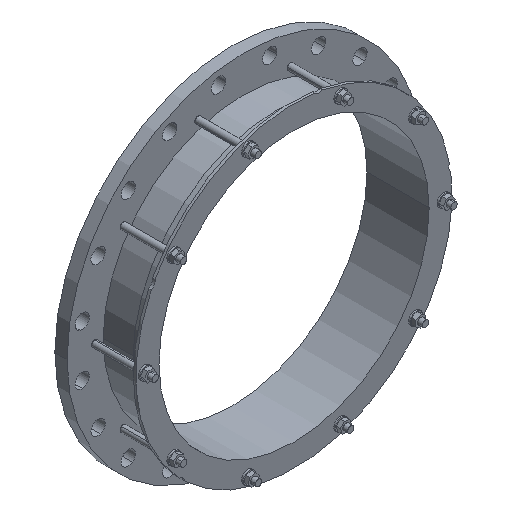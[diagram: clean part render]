
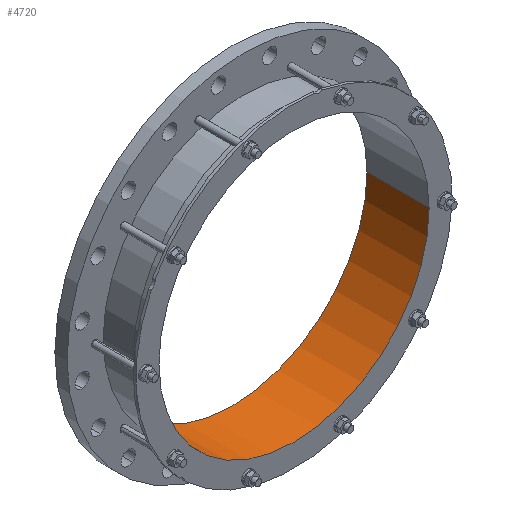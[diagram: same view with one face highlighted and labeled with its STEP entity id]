
A CAD part, isometric view. The second image highlights one B-rep face of the part: STEP entity #4720.
In plain terms, the highlighted cylindrical face has radius 255.5 mm (diameter 511 mm), a partial arc.
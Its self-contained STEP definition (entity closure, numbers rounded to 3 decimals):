
#7=CARTESIAN_POINT('',(0.,23.,0.));
#8=DIRECTION('',(0.,1.,0.));
#9=DIRECTION('',(1.,0.,0.));
#10=AXIS2_PLACEMENT_3D('',#7,#8,#9);
#1601=CARTESIAN_POINT('',(0.,-94.452,0.));
#1602=DIRECTION('',(0.,1.,0.));
#1603=DIRECTION('',(1.,0.,0.));
#1604=AXIS2_PLACEMENT_3D('',#1601,#1602,#1603);
#1606=DIRECTION('',(0.,1.,0.));
#1607=VECTOR('',#1606,117.452);
#1608=CARTESIAN_POINT('',(255.5,-94.452,0.));
#1609=LINE('',#1608,#1607);
#1610=DIRECTION('',(0.,1.,0.));
#1611=VECTOR('',#1610,117.452);
#1612=CARTESIAN_POINT('',(-255.5,-94.452,0.));
#1613=LINE('',#1612,#1611);
#3136=CARTESIAN_POINT('',(255.5,-94.452,0.));
#3137=CARTESIAN_POINT('',(255.5,23.,0.));
#3138=VERTEX_POINT('',#3136);
#3139=VERTEX_POINT('',#3137);
#3144=CARTESIAN_POINT('',(-255.5,-94.452,0.));
#3145=CARTESIAN_POINT('',(-255.5,23.,0.));
#3146=VERTEX_POINT('',#3144);
#3147=VERTEX_POINT('',#3145);
#4707=CARTESIAN_POINT('',(0.,-100.325,0.));
#4708=DIRECTION('',(0.,1.,0.));
#4709=DIRECTION('',(-1.,0.,0.));
#4710=AXIS2_PLACEMENT_3D('',#4707,#4708,#4709);
#4711=CYLINDRICAL_SURFACE('',#4710,255.5);
#4713=ORIENTED_EDGE('',*,*,#4712,.F.);
#4714=ORIENTED_EDGE('',*,*,#4700,.T.);
#4716=ORIENTED_EDGE('',*,*,#4715,.T.);
#4717=ORIENTED_EDGE('',*,*,#3879,.F.);
#4718=EDGE_LOOP('',(#4713,#4714,#4716,#4717));
#4719=FACE_OUTER_BOUND('',#4718,.F.);
#4720=ADVANCED_FACE('',(#4719),#4711,.F.);
#11=CIRCLE('',#10,255.5);
#1605=CIRCLE('',#1604,255.5);
#3879=EDGE_CURVE('',#3139,#3147,#11,.T.);
#4700=EDGE_CURVE('',#3138,#3146,#1605,.T.);
#4712=EDGE_CURVE('',#3138,#3139,#1609,.T.);
#4715=EDGE_CURVE('',#3146,#3147,#1613,.T.);
